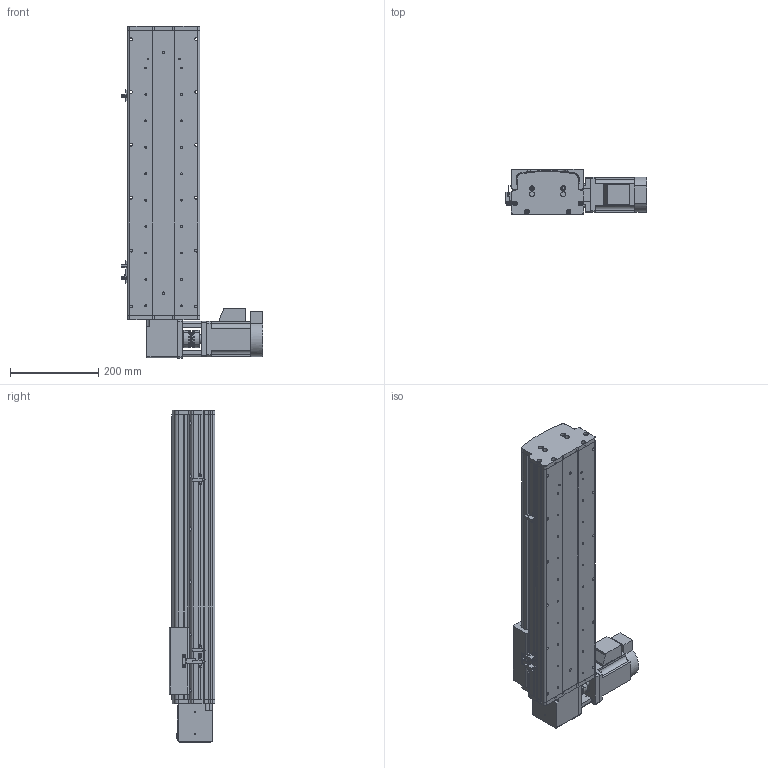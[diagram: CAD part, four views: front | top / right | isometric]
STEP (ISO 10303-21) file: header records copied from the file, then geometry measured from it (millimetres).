
FILE_DESCRIPTION (( 'STEP AP214' ), '1' );
FILE_NAME ('KSD165B-S400-MRT-CM .STEP', '2017-08-07T09:22:32', ( '微软用户' ), ( '微软中国' ), 'SwSTEP 2.0', 'SolidWorks 2014', '' );
FILE_SCHEMA (( 'AUTOMOTIVE_DESIGN' ));
Length unit declared in the file: millimetre
Products named in the file (16): KSD165模组-同步带滑动座-最新版; KSD165B-S400-MRT-CM ; KSD165模组-同步带防尘盖1-400行程-最新版; KSD165模组同步带底板-400行程-最新; 拸秶雄ん750W侜督萇儂; 165宽安装板同步带带电机座750W; 165宽马达安装板同步带右; C39ㄜ1419WP; U倰嫖萇假蚾璃; U倰嫖萇EEㄜSX672; 覜茼え68遵圉猾敕; KSD165模组-同步带-防撞垫2; KSD165模组同步带-防撞垫1; KSD165耀郪-ヶ傷啣1-肮祭湍; KSD165模组-后端板1-同步带; 130宽马达安装板1-带电机座750W（1）
Assembly tree (19 placements, depth 2):
  KSD165B-S400-MRT-CM 
    KSD165模组-同步带滑动座-最新版
    130宽马达安装板1-带电机座750W（1）
    KSD165模组-后端板1-同步带
    KSD165耀郪-ヶ傷啣1-肮祭湍
    KSD165模组同步带-防撞垫1
    KSD165模组-同步带-防撞垫2
    覜茼え68遵圉猾敕
    U倰嫖萇EEㄜSX672  x3
    U倰嫖萇假蚾璃  x3
    C39ㄜ1419WP
    165宽马达安装板同步带右
    165宽安装板同步带带电机座750W
    拸秶雄ん750W侜督萇儂
    KSD165模组同步带底板-400行程-最新
    KSD165模组-同步带防尘盖1-400行程-最新版
Bounding box: 321.2 x 104 x 754 mm (x, y, z)
Volume: 5177930.9 mm3; surface area: 1143446.3 mm2
Topology: 20 solids, 20 shells, 1424 faces, 3948 edges, 2553 vertices
Faces by surface type: cylinder 759, plane 571, cone 94
Entity records: 44623 total; most frequent: CARTESIAN_POINT 9365, DIRECTION 6966, ORIENTED_EDGE 6548, EDGE_CURVE 3274, AXIS2_PLACEMENT_3D 2634, VERTEX_POINT 2145, VECTOR 1698, LINE 1698
